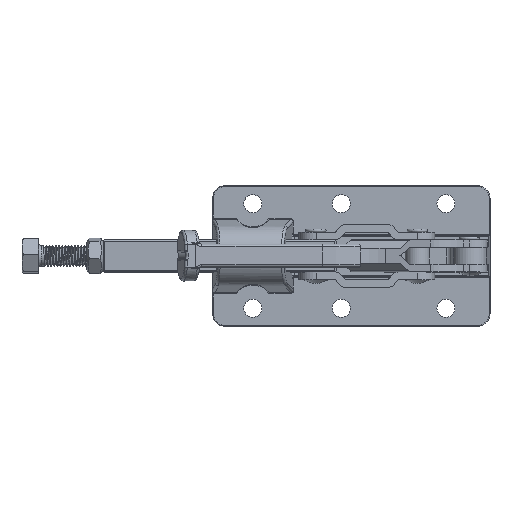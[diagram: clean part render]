
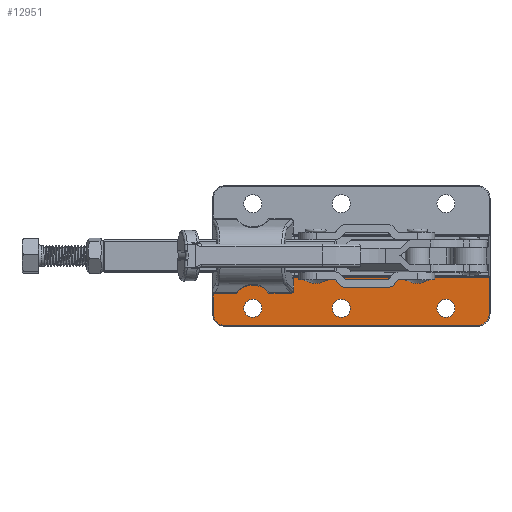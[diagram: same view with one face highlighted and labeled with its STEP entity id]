
A CAD part, top view. The second image highlights one B-rep face of the part: STEP entity #12951.
In plain terms, the highlighted planar face has unit normal (0, 0, 1).
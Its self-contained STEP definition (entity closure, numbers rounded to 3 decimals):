
#306=ELLIPSE('',#13813,1.132,0.996);
#468=FACE_BOUND('',#2168,.T.);
#469=FACE_BOUND('',#2169,.T.);
#470=FACE_BOUND('',#2170,.T.);
#720=PLANE('',#13864);
#1413=FACE_OUTER_BOUND('',#2167,.T.);
#2167=EDGE_LOOP('',(#11673,#11674,#11675,#11676,#11677,#11678,#11679,#11680,
#11681,#11682,#11683,#11684,#11685,#11686));
#2168=EDGE_LOOP('',(#11687,#11688));
#2169=EDGE_LOOP('',(#11689,#11690));
#2170=EDGE_LOOP('',(#11691,#11692));
#2474=CIRCLE('',#13847,3.55);
#2475=CIRCLE('',#13848,3.55);
#2478=CIRCLE('',#13852,3.55);
#2479=CIRCLE('',#13853,3.55);
#2482=CIRCLE('',#13857,3.55);
#2483=CIRCLE('',#13858,3.55);
#2487=CIRCLE('',#13865,1.257);
#2488=CIRCLE('',#13866,4.7);
#2489=CIRCLE('',#13867,4.7);
#2490=CIRCLE('',#13868,7.7);
#3151=B_SPLINE_CURVE_WITH_KNOTS('',3,(#56742,#56743,#56744,#56745,#56746,
#56747,#56748),.UNSPECIFIED.,.F.,.F.,(4,3,4),(0.,0.785,1.571),
 .UNSPECIFIED.);
#3152=B_SPLINE_CURVE_WITH_KNOTS('',3,(#56752,#56753,#56754,#56755,#56756,
#56757,#56758,#56759,#56760,#56761,#56762,#56763,#56764),.UNSPECIFIED.,
 .F.,.F.,(4,3,3,3,4),(2.287,2.672,3.058,
3.443,3.829),.UNSPECIFIED.);
#4061=LINE('',#56730,#5022);
#4062=LINE('',#56734,#5023);
#4063=LINE('',#56738,#5024);
#4064=LINE('',#56740,#5025);
#4065=LINE('',#56750,#5026);
#4066=LINE('',#56766,#5027);
#4067=LINE('',#56769,#5028);
#5022=VECTOR('',#16178,1000.);
#5023=VECTOR('',#16181,1000.);
#5024=VECTOR('',#16184,1000.);
#5025=VECTOR('',#16185,1000.);
#5026=VECTOR('',#16186,1000.);
#5027=VECTOR('',#16187,1000.);
#5028=VECTOR('',#16190,1000.);
#6200=VERTEX_POINT('',#56257);
#6201=VERTEX_POINT('',#56259);
#6232=VERTEX_POINT('',#56550);
#6233=VERTEX_POINT('',#56552);
#6236=VERTEX_POINT('',#56560);
#6237=VERTEX_POINT('',#56562);
#6240=VERTEX_POINT('',#56570);
#6241=VERTEX_POINT('',#56572);
#6262=VERTEX_POINT('',#56727);
#6263=VERTEX_POINT('',#56729);
#6264=VERTEX_POINT('',#56731);
#6265=VERTEX_POINT('',#56733);
#6266=VERTEX_POINT('',#56735);
#6267=VERTEX_POINT('',#56737);
#6268=VERTEX_POINT('',#56739);
#6269=VERTEX_POINT('',#56741);
#6270=VERTEX_POINT('',#56749);
#6271=VERTEX_POINT('',#56751);
#6272=VERTEX_POINT('',#56765);
#6273=VERTEX_POINT('',#56767);
#8028=EDGE_CURVE('',#6201,#6200,#306,.T.);
#8065=EDGE_CURVE('',#6232,#6233,#2474,.T.);
#8066=EDGE_CURVE('',#6233,#6232,#2475,.T.);
#8070=EDGE_CURVE('',#6236,#6237,#2478,.T.);
#8071=EDGE_CURVE('',#6237,#6236,#2479,.T.);
#8075=EDGE_CURVE('',#6240,#6241,#2482,.T.);
#8076=EDGE_CURVE('',#6241,#6240,#2483,.T.);
#8099=EDGE_CURVE('',#6200,#6262,#2487,.T.);
#8100=EDGE_CURVE('',#6262,#6263,#4061,.T.);
#8101=EDGE_CURVE('',#6263,#6264,#2488,.T.);
#8102=EDGE_CURVE('',#6264,#6265,#4062,.T.);
#8103=EDGE_CURVE('',#6265,#6266,#2489,.T.);
#8104=EDGE_CURVE('',#6266,#6267,#4063,.T.);
#8105=EDGE_CURVE('',#6267,#6268,#4064,.T.);
#8106=EDGE_CURVE('',#6269,#6268,#3151,.T.);
#8107=EDGE_CURVE('',#6269,#6270,#4065,.T.);
#8108=EDGE_CURVE('',#6270,#6271,#3152,.T.);
#8109=EDGE_CURVE('',#6271,#6272,#4066,.T.);
#8110=EDGE_CURVE('',#6272,#6273,#2490,.T.);
#8111=EDGE_CURVE('',#6273,#6201,#4067,.T.);
#11673=ORIENTED_EDGE('',*,*,#8028,.T.);
#11674=ORIENTED_EDGE('',*,*,#8099,.T.);
#11675=ORIENTED_EDGE('',*,*,#8100,.T.);
#11676=ORIENTED_EDGE('',*,*,#8101,.T.);
#11677=ORIENTED_EDGE('',*,*,#8102,.T.);
#11678=ORIENTED_EDGE('',*,*,#8103,.T.);
#11679=ORIENTED_EDGE('',*,*,#8104,.T.);
#11680=ORIENTED_EDGE('',*,*,#8105,.T.);
#11681=ORIENTED_EDGE('',*,*,#8106,.F.);
#11682=ORIENTED_EDGE('',*,*,#8107,.T.);
#11683=ORIENTED_EDGE('',*,*,#8108,.T.);
#11684=ORIENTED_EDGE('',*,*,#8109,.T.);
#11685=ORIENTED_EDGE('',*,*,#8110,.T.);
#11686=ORIENTED_EDGE('',*,*,#8111,.T.);
#11687=ORIENTED_EDGE('',*,*,#8076,.F.);
#11688=ORIENTED_EDGE('',*,*,#8075,.F.);
#11689=ORIENTED_EDGE('',*,*,#8071,.F.);
#11690=ORIENTED_EDGE('',*,*,#8070,.F.);
#11691=ORIENTED_EDGE('',*,*,#8066,.F.);
#11692=ORIENTED_EDGE('',*,*,#8065,.F.);
#12951=ADVANCED_FACE('',(#1413,#468,#469,#470),#720,.T.);
#13813=AXIS2_PLACEMENT_3D('',#56260,#16052,#16053);
#13847=AXIS2_PLACEMENT_3D('',#56553,#16127,#16128);
#13848=AXIS2_PLACEMENT_3D('',#56554,#16129,#16130);
#13852=AXIS2_PLACEMENT_3D('',#56563,#16138,#16139);
#13853=AXIS2_PLACEMENT_3D('',#56564,#16140,#16141);
#13857=AXIS2_PLACEMENT_3D('',#56573,#16149,#16150);
#13858=AXIS2_PLACEMENT_3D('',#56574,#16151,#16152);
#13864=AXIS2_PLACEMENT_3D('',#56726,#16174,#16175);
#13865=AXIS2_PLACEMENT_3D('',#56728,#16176,#16177);
#13866=AXIS2_PLACEMENT_3D('',#56732,#16179,#16180);
#13867=AXIS2_PLACEMENT_3D('',#56736,#16182,#16183);
#13868=AXIS2_PLACEMENT_3D('',#56768,#16188,#16189);
#16052=DIRECTION('center_axis',(0.,0.,-1.));
#16053=DIRECTION('ref_axis',(0.982,-0.187,0.));
#16127=DIRECTION('center_axis',(0.,0.,1.));
#16128=DIRECTION('ref_axis',(1.,0.,0.));
#16129=DIRECTION('center_axis',(0.,0.,1.));
#16130=DIRECTION('ref_axis',(1.,0.,0.));
#16138=DIRECTION('center_axis',(0.,0.,1.));
#16139=DIRECTION('ref_axis',(1.,0.,0.));
#16140=DIRECTION('center_axis',(0.,0.,1.));
#16141=DIRECTION('ref_axis',(1.,0.,0.));
#16149=DIRECTION('center_axis',(0.,0.,1.));
#16150=DIRECTION('ref_axis',(1.,0.,0.));
#16151=DIRECTION('center_axis',(0.,0.,1.));
#16152=DIRECTION('ref_axis',(1.,0.,0.));
#16174=DIRECTION('center_axis',(0.,0.,1.));
#16175=DIRECTION('ref_axis',(1.,0.,0.));
#16176=DIRECTION('center_axis',(0.,0.,-1.));
#16177=DIRECTION('ref_axis',(-0.557,-0.83,0.));
#16178=DIRECTION('',(0.,-1.,0.));
#16179=DIRECTION('center_axis',(0.,0.,1.));
#16180=DIRECTION('ref_axis',(1.,0.,0.));
#16181=DIRECTION('',(1.,0.,0.));
#16182=DIRECTION('center_axis',(0.,0.,1.));
#16183=DIRECTION('ref_axis',(1.,0.,0.));
#16184=DIRECTION('',(0.,1.,0.));
#16185=DIRECTION('',(-1.,0.,0.));
#16186=DIRECTION('',(0.,-1.,0.));
#16187=DIRECTION('',(-1.,0.,0.));
#16188=DIRECTION('center_axis',(0.,0.,1.));
#16189=DIRECTION('ref_axis',(1.,0.,0.));
#16190=DIRECTION('',(-1.,0.,0.));
#56257=CARTESIAN_POINT('',(0.469,13.17,5.3));
#56259=CARTESIAN_POINT('',(1.009,13.051,5.3));
#56260=CARTESIAN_POINT('Origin',(0.956,14.052,5.3));
#56550=CARTESIAN_POINT('',(88.55,7.15,5.3));
#56552=CARTESIAN_POINT('',(95.65,7.15,5.3));
#56553=CARTESIAN_POINT('Origin',(92.1,7.15,5.3));
#56554=CARTESIAN_POINT('Origin',(92.1,7.15,5.3));
#56560=CARTESIAN_POINT('',(47.25,7.15,5.3));
#56562=CARTESIAN_POINT('',(54.35,7.15,5.3));
#56563=CARTESIAN_POINT('Origin',(50.8,7.15,5.3));
#56564=CARTESIAN_POINT('Origin',(50.8,7.15,5.3));
#56570=CARTESIAN_POINT('',(12.35,7.15,5.3));
#56572=CARTESIAN_POINT('',(19.45,7.15,5.3));
#56573=CARTESIAN_POINT('Origin',(15.9,7.15,5.3));
#56574=CARTESIAN_POINT('Origin',(15.9,7.15,5.3));
#56726=CARTESIAN_POINT('Origin',(0.,0.,5.3));
#56727=CARTESIAN_POINT('',(0.3,13.266,5.3));
#56728=CARTESIAN_POINT('Origin',(1.001,14.31,5.3));
#56729=CARTESIAN_POINT('',(0.3,5.,5.3));
#56730=CARTESIAN_POINT('',(0.3,5.,5.3));
#56731=CARTESIAN_POINT('',(5.,0.3,5.3));
#56732=CARTESIAN_POINT('Origin',(5.,5.,5.3));
#56733=CARTESIAN_POINT('',(104.5,0.3,5.3));
#56734=CARTESIAN_POINT('',(104.5,0.3,5.3));
#56735=CARTESIAN_POINT('',(109.2,5.,5.3));
#56736=CARTESIAN_POINT('Origin',(104.5,5.,5.3));
#56737=CARTESIAN_POINT('',(109.2,19.5,5.3));
#56738=CARTESIAN_POINT('',(109.2,19.5,5.3));
#56739=CARTESIAN_POINT('',(32.765,19.5,5.3));
#56740=CARTESIAN_POINT('',(0.,19.5,5.3));
#56741=CARTESIAN_POINT('',(32.056,18.8,5.3));
#56742=CARTESIAN_POINT('Ctrl Pts',(32.056,18.8,5.3));
#56743=CARTESIAN_POINT('Ctrl Pts',(32.056,18.983,5.3));
#56744=CARTESIAN_POINT('Ctrl Pts',(32.133,19.165,5.3));
#56745=CARTESIAN_POINT('Ctrl Pts',(32.264,19.295,5.3));
#56746=CARTESIAN_POINT('Ctrl Pts',(32.395,19.425,5.3));
#56747=CARTESIAN_POINT('Ctrl Pts',(32.579,19.5,5.3));
#56748=CARTESIAN_POINT('Ctrl Pts',(32.765,19.5,5.3));
#56749=CARTESIAN_POINT('',(32.056,14.336,5.3));
#56750=CARTESIAN_POINT('',(32.056,0.,5.3));
#56751=CARTESIAN_POINT('',(30.778,13.051,5.3));
#56752=CARTESIAN_POINT('Ctrl Pts',(32.056,14.336,5.3));
#56753=CARTESIAN_POINT('Ctrl Pts',(32.056,14.166,5.3));
#56754=CARTESIAN_POINT('Ctrl Pts',(32.023,13.997,5.3));
#56755=CARTESIAN_POINT('Ctrl Pts',(31.96,13.841,5.3));
#56756=CARTESIAN_POINT('Ctrl Pts',(31.896,13.686,5.3));
#56757=CARTESIAN_POINT('Ctrl Pts',(31.802,13.543,5.3));
#56758=CARTESIAN_POINT('Ctrl Pts',(31.684,13.425,5.3));
#56759=CARTESIAN_POINT('Ctrl Pts',(31.566,13.307,5.3));
#56760=CARTESIAN_POINT('Ctrl Pts',(31.425,13.212,5.3));
#56761=CARTESIAN_POINT('Ctrl Pts',(31.27,13.148,5.3));
#56762=CARTESIAN_POINT('Ctrl Pts',(31.115,13.084,5.3));
#56763=CARTESIAN_POINT('Ctrl Pts',(30.947,13.051,5.3));
#56764=CARTESIAN_POINT('Ctrl Pts',(30.778,13.051,5.3));
#56765=CARTESIAN_POINT('',(22.218,13.051,5.3));
#56766=CARTESIAN_POINT('',(22.41,13.051,5.3));
#56767=CARTESIAN_POINT('',(9.582,13.051,5.3));
#56768=CARTESIAN_POINT('Origin',(15.9,8.65,5.3));
#56769=CARTESIAN_POINT('',(0.988,13.051,5.3));
